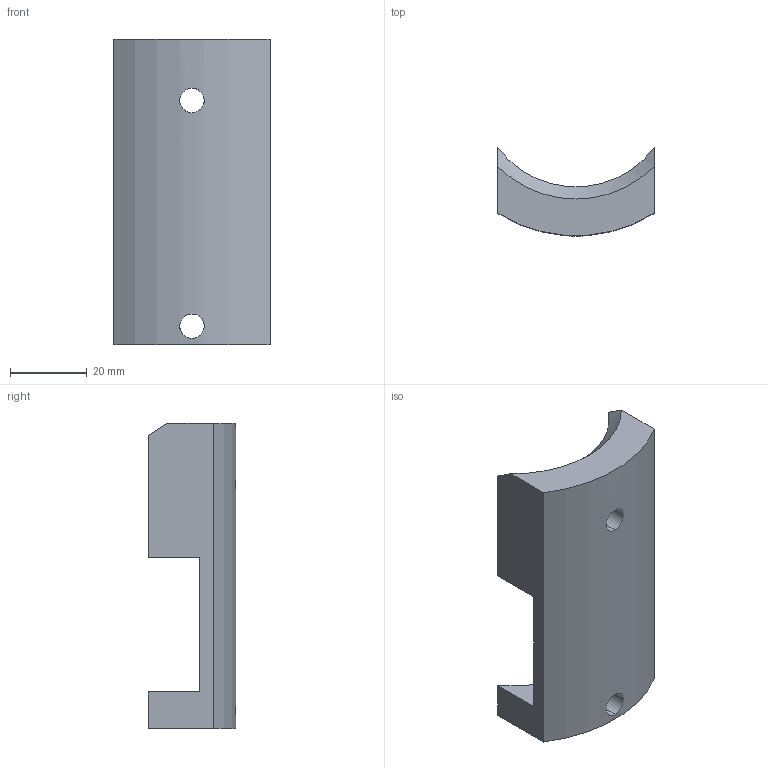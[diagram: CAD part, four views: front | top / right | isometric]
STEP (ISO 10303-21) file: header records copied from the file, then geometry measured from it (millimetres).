
FILE_DESCRIPTION (( 'STEP AP203' ), '1' );
FILE_NAME ('269-18-218.STEP', '2020-03-03T15:42:25', ( '' ), ( '' ), 'SwSTEP 2.0', 'SolidWorks 2017', '' );
FILE_SCHEMA (( 'CONFIG_CONTROL_DESIGN' ));
Length unit declared in the file: inch
Products named in the file (1): 269-18-218
Bounding box: 40.64 x 22.86 x 79.38 mm (x, y, z)
Volume: 34843.8 mm3; surface area: 10591.4 mm2
Topology: 1 solids, 1 shells, 15 faces, 39 edges, 26 vertices
Faces by surface type: cylinder 7, plane 7, cone 1
Entity records: 793 total; most frequent: CARTESIAN_POINT 347, ORIENTED_EDGE 78, DIRECTION 68, EDGE_CURVE 39, VERTEX_POINT 26, AXIS2_PLACEMENT_3D 23, VECTOR 22, LINE 22
